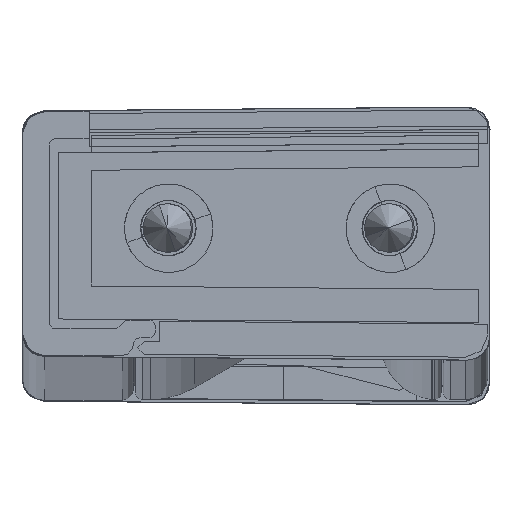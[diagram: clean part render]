
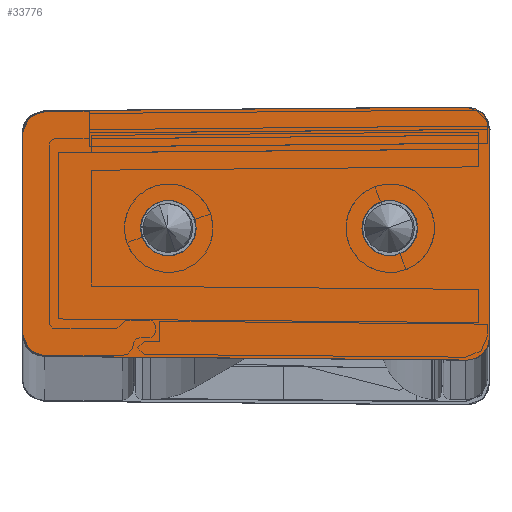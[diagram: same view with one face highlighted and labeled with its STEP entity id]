
A CAD part, top view. The second image highlights one B-rep face of the part: STEP entity #33776.
In plain terms, the highlighted planar face has unit normal (-0.009, 0, 1) as drawn and (0.009, 0, -1) by its records, which use the part's own axes.
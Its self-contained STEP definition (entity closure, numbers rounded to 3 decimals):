
#714 = CARTESIAN_POINT ( 'NONE',  ( 19.635, -1.695, -2.995 ) ) ;
#862 = CARTESIAN_POINT ( 'NONE',  ( 0.535, -1.861, -3.161 ) ) ;
#1749 = CIRCLE ( 'NONE', #27092, 1. ) ;
#1882 = CARTESIAN_POINT ( 'NONE',  ( 4.033, 4.1, -3.131 ) ) ;
#1971 = CARTESIAN_POINT ( 'NONE',  ( 20.626, 8.395, -2.986 ) ) ;
#2416 = CARTESIAN_POINT ( 'NONE',  ( 20.626, -0.695, -2.986 ) ) ;
#3511 = CARTESIAN_POINT ( 'NONE',  ( 0.535, -1.861, -3.161 ) ) ;
#3613 = VECTOR ( 'NONE', #13661, 1000. ) ;
#3754 = CARTESIAN_POINT ( 'NONE',  ( 4.033, 4.1, -3.131 ) ) ;
#3763 = ORIENTED_EDGE ( 'NONE', *, *, #18976, .F. ) ;
#4480 = CARTESIAN_POINT ( 'NONE',  ( 19.635, 9.395, -2.995 ) ) ;
#4688 = AXIS2_PLACEMENT_3D ( 'NONE', #38396, #34869, #38191 ) ;
#4857 = VERTEX_POINT ( 'NONE', #2416 ) ;
#4961 = ORIENTED_EDGE ( 'NONE', *, *, #30457, .F. ) ;
#5146 = VERTEX_POINT ( 'NONE', #31824 ) ;
#5636 = VERTEX_POINT ( 'NONE', #23264 ) ;
#6889 = DIRECTION ( 'NONE',  ( -1., 0.009, -0.009 ) ) ;
#7789 = FACE_BOUND ( 'NONE', #8030, .T. ) ;
#8030 = EDGE_LOOP ( 'NONE', ( #22735, #13140 ) ) ;
#8543 = DIRECTION ( 'NONE',  ( -0.009, 0., 1. ) ) ;
#9220 = EDGE_CURVE ( 'NONE', #13677, #35709, #38527, .T. ) ;
#10030 = LINE ( 'NONE', #35420, #32103 ) ;
#10543 = LINE ( 'NONE', #22445, #3613 ) ;
#10704 = PLANE ( 'NONE',  #39056 ) ;
#11155 = DIRECTION ( 'NONE',  ( 1., 0., 0.009 ) ) ;
#11352 = CARTESIAN_POINT ( 'NONE',  ( 20.626, 8.976, -2.986 ) ) ;
#11392 = EDGE_LOOP ( 'NONE', ( #32231, #15175 ) ) ;
#11505 =( BOUNDED_CURVE ( )  B_SPLINE_CURVE ( 3, ( #714, #29674, #32580, #13214 ),
 .UNSPECIFIED., .F., .F. ) 
 B_SPLINE_CURVE_WITH_KNOTS ( ( 4, 4 ),
 ( 1.58, 3.142 ),
 .UNSPECIFIED. ) 
 CURVE ( )  GEOMETRIC_REPRESENTATION_ITEM ( )  RATIONAL_B_SPLINE_CURVE ( ( 1., 0.807, 0.807, 1. ) ) 
 REPRESENTATION_ITEM ( '' )  );
#12719 = CARTESIAN_POINT ( 'NONE',  ( -0.474, 8.561, -3.17 ) ) ;
#13140 = ORIENTED_EDGE ( 'NONE', *, *, #9220, .T. ) ;
#13214 = CARTESIAN_POINT ( 'NONE',  ( 20.626, -0.695, -2.986 ) ) ;
#13314 = LINE ( 'NONE', #3511, #30059 ) ;
#13661 = DIRECTION ( 'NONE',  ( 0., -1., 0. ) ) ;
#13677 = VERTEX_POINT ( 'NONE', #20349 ) ;
#13756 = VERTEX_POINT ( 'NONE', #18220 ) ;
#14149 = AXIS2_PLACEMENT_3D ( 'NONE', #1882, #33334, #17924 ) ;
#14245 = LINE ( 'NONE', #20521, #24680 ) ;
#14824 = CIRCLE ( 'NONE', #14149, 1.25 ) ;
#15175 = ORIENTED_EDGE ( 'NONE', *, *, #37372, .T. ) ;
#16116 = CARTESIAN_POINT ( 'NONE',  ( 12.783, 4.1, -3.054 ) ) ;
#16238 = DIRECTION ( 'NONE',  ( 1., 0.009, 0.009 ) ) ;
#16968 = FACE_OUTER_BOUND ( 'NONE', #29937, .T. ) ;
#17512 = AXIS2_PLACEMENT_3D ( 'NONE', #24002, #8543, #20664 ) ;
#17924 = DIRECTION ( 'NONE',  ( 1., 0., 0.009 ) ) ;
#18220 = CARTESIAN_POINT ( 'NONE',  ( 19.635, 9.395, -2.995 ) ) ;
#18831 = VERTEX_POINT ( 'NONE', #21592 ) ;
#18976 = EDGE_CURVE ( 'NONE', #5146, #38940, #22001, .T. ) ;
#19122 = EDGE_CURVE ( 'NONE', #4857, #23273, #14245, .T. ) ;
#19691 = CARTESIAN_POINT ( 'NONE',  ( 19.626, 8.395, -2.995 ) ) ;
#19894 = FACE_BOUND ( 'NONE', #11392, .T. ) ;
#20101 = DIRECTION ( 'NONE',  ( -0.009, 0., 1. ) ) ;
#20349 = CARTESIAN_POINT ( 'NONE',  ( 2.783, 4.1, -3.142 ) ) ;
#20427 = ORIENTED_EDGE ( 'NONE', *, *, #34517, .F. ) ;
#20521 = CARTESIAN_POINT ( 'NONE',  ( 20.626, -0.695, -2.986 ) ) ;
#20587 = DIRECTION ( 'NONE',  ( 1., 0., 0.009 ) ) ;
#20664 = DIRECTION ( 'NONE',  ( 1., 0., 0.009 ) ) ;
#20949 = CARTESIAN_POINT ( 'NONE',  ( 20.217, 9.39, -2.989 ) ) ;
#21000 = DIRECTION ( 'NONE',  ( -0.009, 0., 1. ) ) ;
#21592 = CARTESIAN_POINT ( 'NONE',  ( 15.283, 4.1, -3.033 ) ) ;
#21691 = VERTEX_POINT ( 'NONE', #29989 ) ;
#22001 = CIRCLE ( 'NONE', #4688, 1. ) ;
#22445 = CARTESIAN_POINT ( 'NONE',  ( -0.474, 8.561, -3.17 ) ) ;
#22735 = ORIENTED_EDGE ( 'NONE', *, *, #28244, .T. ) ;
#23117 = ORIENTED_EDGE ( 'NONE', *, *, #30407, .F. ) ;
#23264 = CARTESIAN_POINT ( 'NONE',  ( -0.474, -0.861, -3.17 ) ) ;
#23273 = VERTEX_POINT ( 'NONE', #38623 ) ;
#23501 = ORIENTED_EDGE ( 'NONE', *, *, #28198, .F. ) ;
#23551 = CIRCLE ( 'NONE', #17512, 1.25 ) ;
#24002 = CARTESIAN_POINT ( 'NONE',  ( 14.033, 4.1, -3.043 ) ) ;
#24680 = VECTOR ( 'NONE', #27197, 1000. ) ;
#25543 = CIRCLE ( 'NONE', #34810, 1.25 ) ;
#26779 = VERTEX_POINT ( 'NONE', #16116 ) ;
#27092 = AXIS2_PLACEMENT_3D ( 'NONE', #35888, #32778, #29061 ) ;
#27197 = DIRECTION ( 'NONE',  ( 0., 1., 0. ) ) ;
#27282 = ORIENTED_EDGE ( 'NONE', *, *, #32774, .F. ) ;
#27721 = EDGE_CURVE ( 'NONE', #21691, #4857, #11505, .T. ) ;
#28198 = EDGE_CURVE ( 'NONE', #13756, #5146, #10030, .T. ) ;
#28244 = EDGE_CURVE ( 'NONE', #35709, #13677, #14824, .T. ) ;
#29061 = DIRECTION ( 'NONE',  ( 1., 0., 0.009 ) ) ;
#29127 = ORIENTED_EDGE ( 'NONE', *, *, #27721, .F. ) ;
#29674 = CARTESIAN_POINT ( 'NONE',  ( 20.217, -1.69, -2.989 ) ) ;
#29677 = DIRECTION ( 'NONE',  ( 1., 0., 0.009 ) ) ;
#29937 = EDGE_LOOP ( 'NONE', ( #4961, #41139, #29127, #20427, #27282, #23117, #3763, #23501 ) ) ;
#29989 = CARTESIAN_POINT ( 'NONE',  ( 19.635, -1.695, -2.995 ) ) ;
#30059 = VECTOR ( 'NONE', #16238, 1000. ) ;
#30320 = DIRECTION ( 'NONE',  ( -0.009, 0., 1. ) ) ;
#30407 = EDGE_CURVE ( 'NONE', #38940, #5636, #10543, .T. ) ;
#30457 = EDGE_CURVE ( 'NONE', #23273, #13756, #36312, .T. ) ;
#30815 = CARTESIAN_POINT ( 'NONE',  ( 5.283, 4.1, -3.12 ) ) ;
#31824 = CARTESIAN_POINT ( 'NONE',  ( 0.535, 9.561, -3.161 ) ) ;
#32103 = VECTOR ( 'NONE', #6889, 1000. ) ;
#32231 = ORIENTED_EDGE ( 'NONE', *, *, #34190, .T. ) ;
#32580 = CARTESIAN_POINT ( 'NONE',  ( 20.626, -1.276, -2.986 ) ) ;
#32774 = EDGE_CURVE ( 'NONE', #5636, #34045, #1749, .T. ) ;
#32778 = DIRECTION ( 'NONE',  ( -0.009, 0., 1. ) ) ;
#33334 = DIRECTION ( 'NONE',  ( -0.009, 0., 1. ) ) ;
#33414 = CARTESIAN_POINT ( 'NONE',  ( 14.033, 4.1, -3.043 ) ) ;
#33776 = ADVANCED_FACE ( 'NONE', ( #19894, #7789, #16968 ), #10704, .F. ) ;
#33909 = AXIS2_PLACEMENT_3D ( 'NONE', #3754, #21000, #20587 ) ;
#34045 = VERTEX_POINT ( 'NONE', #862 ) ;
#34190 = EDGE_CURVE ( 'NONE', #18831, #26779, #23551, .T. ) ;
#34517 = EDGE_CURVE ( 'NONE', #34045, #21691, #13314, .T. ) ;
#34810 = AXIS2_PLACEMENT_3D ( 'NONE', #33414, #30320, #11155 ) ;
#34869 = DIRECTION ( 'NONE',  ( -0.009, 0., 1. ) ) ;
#35420 = CARTESIAN_POINT ( 'NONE',  ( 19.635, 9.395, -2.995 ) ) ;
#35709 = VERTEX_POINT ( 'NONE', #30815 ) ;
#35888 = CARTESIAN_POINT ( 'NONE',  ( 0.526, -0.861, -3.161 ) ) ;
#36312 =( BOUNDED_CURVE ( )  B_SPLINE_CURVE ( 3, ( #1971, #11352, #20949, #4480 ),
 .UNSPECIFIED., .F., .F. ) 
 B_SPLINE_CURVE_WITH_KNOTS ( ( 4, 4 ),
 ( 3.142, 4.704 ),
 .UNSPECIFIED. ) 
 CURVE ( )  GEOMETRIC_REPRESENTATION_ITEM ( )  RATIONAL_B_SPLINE_CURVE ( ( 1., 0.807, 0.807, 1. ) ) 
 REPRESENTATION_ITEM ( '' )  );
#37372 = EDGE_CURVE ( 'NONE', #26779, #18831, #25543, .T. ) ;
#38191 = DIRECTION ( 'NONE',  ( 1., 0., 0.009 ) ) ;
#38396 = CARTESIAN_POINT ( 'NONE',  ( 0.526, 8.561, -3.161 ) ) ;
#38527 = CIRCLE ( 'NONE', #33909, 1.25 ) ;
#38623 = CARTESIAN_POINT ( 'NONE',  ( 20.626, 8.395, -2.986 ) ) ;
#38940 = VERTEX_POINT ( 'NONE', #12719 ) ;
#39056 = AXIS2_PLACEMENT_3D ( 'NONE', #19691, #20101, #29677 ) ;
#41139 = ORIENTED_EDGE ( 'NONE', *, *, #19122, .F. ) ;
